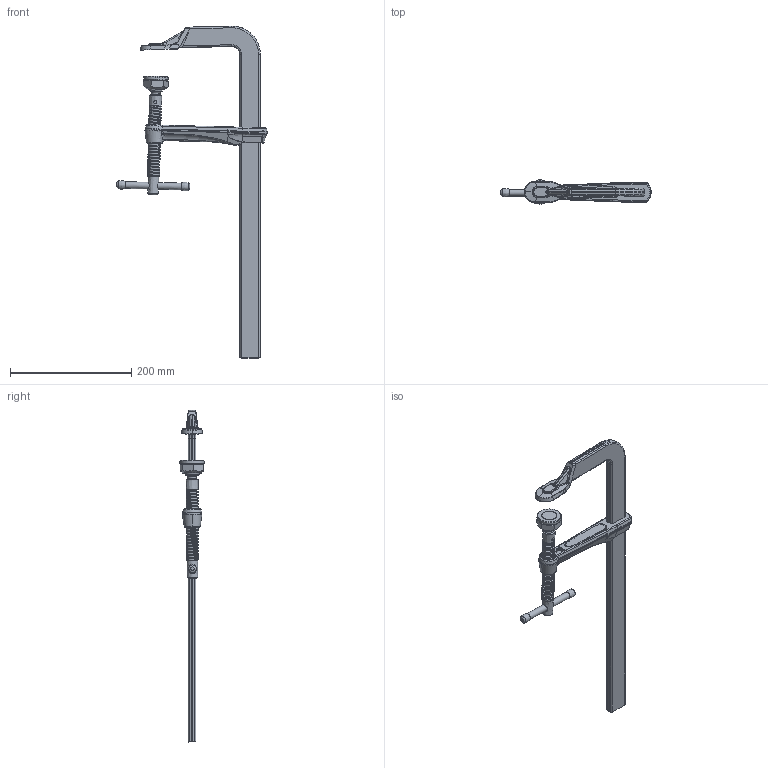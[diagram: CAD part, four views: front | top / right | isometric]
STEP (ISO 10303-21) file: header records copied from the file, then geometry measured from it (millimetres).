
FILE_DESCRIPTION( ('This file contains a STEP AP42 implementation' ,'as created by ZW3D STEP Interface translator.') ,'2;1' );
FILE_NAME( 'SG40M.stp' ,'20 630.115823', (''), ('ZWCAD Software Co.'), 'Version 1.0', 'ZW3D to STEP translator', '' );
FILE_SCHEMA(('AUTOMOTIVE_DESIGN'));
Length unit declared in the file: millimetre
Products named in the file (2): 0; SG40M
Bounding box: 247.71 x 40.01 x 546.73 mm (x, y, z)
Volume: 473830.8 mm3; surface area: 128791.8 mm2
Topology: 10 solids, 11 shells, 510 faces, 1183 edges, 709 vertices
Faces by surface type: bspline 510
Entity records: 121593 total; most frequent: CARTESIAN_POINT 114141, ORIENTED_EDGE 2340, EDGE_CURVE 1175, B_SPLINE_CURVE_WITH_KNOTS 855, VERTEX_POINT 700, EDGE_LOOP 540, FACE_OUTER_BOUND 510, ADVANCED_FACE 510
